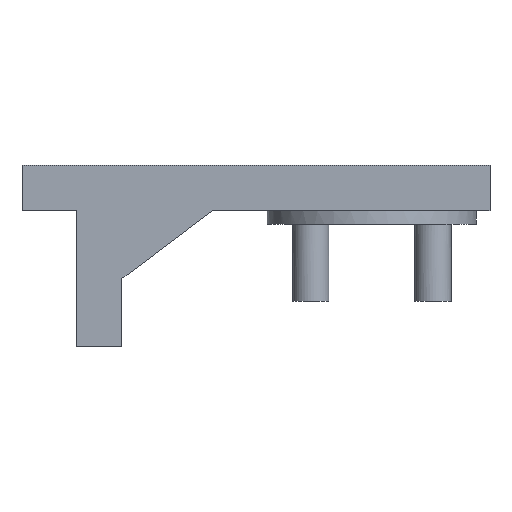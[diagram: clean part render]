
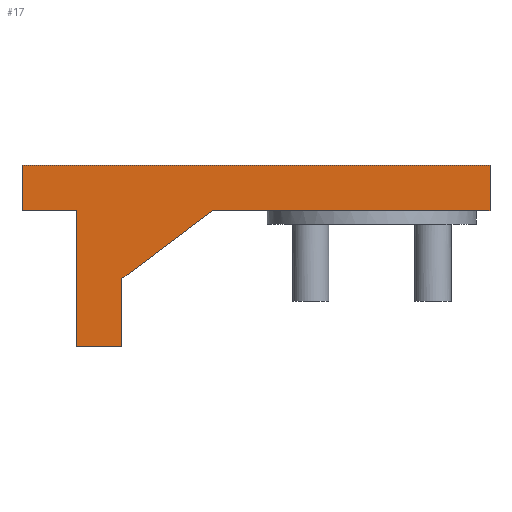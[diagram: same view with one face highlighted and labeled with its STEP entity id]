
A CAD part, left-side view. The second image highlights one B-rep face of the part: STEP entity #17.
In plain terms, the highlighted planar face has unit normal (-1, 0, 0).
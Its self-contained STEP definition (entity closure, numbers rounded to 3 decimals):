
#17 = ADVANCED_FACE('',(#18),#32,.F.);
#18 = FACE_BOUND('',#19,.F.);
#19 = EDGE_LOOP('',(#20,#55,#83,#111,#139,#167,#195,#223,#251));
#20 = ORIENTED_EDGE('',*,*,#21,.F.);
#21 = EDGE_CURVE('',#22,#24,#26,.T.);
#22 = VERTEX_POINT('',#23);
#23 = CARTESIAN_POINT('',(45.,39.,190.));
#24 = VERTEX_POINT('',#25);
#25 = CARTESIAN_POINT('',(45.,39.,200.));
#26 = SURFACE_CURVE('',#27,(#31,#43),.PCURVE_S1.);
#27 = LINE('',#28,#29);
#28 = CARTESIAN_POINT('',(45.,39.,190.));
#29 = VECTOR('',#30,1.);
#30 = DIRECTION('',(0.,0.,1.));
#31 = PCURVE('',#32,#37);
#32 = PLANE('',#33);
#33 = AXIS2_PLACEMENT_3D('',#34,#35,#36);
#34 = CARTESIAN_POINT('',(45.,39.,190.));
#35 = DIRECTION('',(1.,0.,0.));
#36 = DIRECTION('',(0.,0.,1.));
#37 = DEFINITIONAL_REPRESENTATION('',(#38),#42);
#38 = LINE('',#39,#40);
#39 = CARTESIAN_POINT('',(0.,0.));
#40 = VECTOR('',#41,1.);
#41 = DIRECTION('',(1.,0.));
#42 = ( GEOMETRIC_REPRESENTATION_CONTEXT(2) 
PARAMETRIC_REPRESENTATION_CONTEXT() REPRESENTATION_CONTEXT('2D SPACE',''
  ) );
#43 = PCURVE('',#44,#49);
#44 = PLANE('',#45);
#45 = AXIS2_PLACEMENT_3D('',#46,#47,#48);
#46 = CARTESIAN_POINT('',(45.,39.,190.));
#47 = DIRECTION('',(0.,1.,0.));
#48 = DIRECTION('',(0.,0.,1.));
#49 = DEFINITIONAL_REPRESENTATION('',(#50),#54);
#50 = LINE('',#51,#52);
#51 = CARTESIAN_POINT('',(0.,0.));
#52 = VECTOR('',#53,1.);
#53 = DIRECTION('',(1.,0.));
#54 = ( GEOMETRIC_REPRESENTATION_CONTEXT(2) 
PARAMETRIC_REPRESENTATION_CONTEXT() REPRESENTATION_CONTEXT('2D SPACE',''
  ) );
#55 = ORIENTED_EDGE('',*,*,#56,.T.);
#56 = EDGE_CURVE('',#22,#57,#59,.T.);
#57 = VERTEX_POINT('',#58);
#58 = CARTESIAN_POINT('',(45.,100.,190.));
#59 = SURFACE_CURVE('',#60,(#64,#71),.PCURVE_S1.);
#60 = LINE('',#61,#62);
#61 = CARTESIAN_POINT('',(45.,39.,190.));
#62 = VECTOR('',#63,1.);
#63 = DIRECTION('',(0.,1.,0.));
#64 = PCURVE('',#32,#65);
#65 = DEFINITIONAL_REPRESENTATION('',(#66),#70);
#66 = LINE('',#67,#68);
#67 = CARTESIAN_POINT('',(0.,0.));
#68 = VECTOR('',#69,1.);
#69 = DIRECTION('',(0.,-1.));
#70 = ( GEOMETRIC_REPRESENTATION_CONTEXT(2) 
PARAMETRIC_REPRESENTATION_CONTEXT() REPRESENTATION_CONTEXT('2D SPACE',''
  ) );
#71 = PCURVE('',#72,#77);
#72 = PLANE('',#73);
#73 = AXIS2_PLACEMENT_3D('',#74,#75,#76);
#74 = CARTESIAN_POINT('',(45.,39.,190.));
#75 = DIRECTION('',(0.,0.,1.));
#76 = DIRECTION('',(1.,0.,0.));
#77 = DEFINITIONAL_REPRESENTATION('',(#78),#82);
#78 = LINE('',#79,#80);
#79 = CARTESIAN_POINT('',(0.,0.));
#80 = VECTOR('',#81,1.);
#81 = DIRECTION('',(0.,1.));
#82 = ( GEOMETRIC_REPRESENTATION_CONTEXT(2) 
PARAMETRIC_REPRESENTATION_CONTEXT() REPRESENTATION_CONTEXT('2D SPACE',''
  ) );
#83 = ORIENTED_EDGE('',*,*,#84,.F.);
#84 = EDGE_CURVE('',#85,#57,#87,.T.);
#85 = VERTEX_POINT('',#86);
#86 = CARTESIAN_POINT('',(45.,120.,175.));
#87 = SURFACE_CURVE('',#88,(#92,#99),.PCURVE_S1.);
#88 = LINE('',#89,#90);
#89 = CARTESIAN_POINT('',(45.,120.,175.));
#90 = VECTOR('',#91,1.);
#91 = DIRECTION('',(0.,-0.8,0.6));
#92 = PCURVE('',#32,#93);
#93 = DEFINITIONAL_REPRESENTATION('',(#94),#98);
#94 = LINE('',#95,#96);
#95 = CARTESIAN_POINT('',(-15.,-81.));
#96 = VECTOR('',#97,1.);
#97 = DIRECTION('',(0.6,0.8));
#98 = ( GEOMETRIC_REPRESENTATION_CONTEXT(2) 
PARAMETRIC_REPRESENTATION_CONTEXT() REPRESENTATION_CONTEXT('2D SPACE',''
  ) );
#99 = PCURVE('',#100,#105);
#100 = PLANE('',#101);
#101 = AXIS2_PLACEMENT_3D('',#102,#103,#104);
#102 = CARTESIAN_POINT('',(45.,120.,175.));
#103 = DIRECTION('',(0.,-0.6,-0.8));
#104 = DIRECTION('',(0.,-0.8,0.6));
#105 = DEFINITIONAL_REPRESENTATION('',(#106),#110);
#106 = LINE('',#107,#108);
#107 = CARTESIAN_POINT('',(0.,0.));
#108 = VECTOR('',#109,1.);
#109 = DIRECTION('',(1.,0.));
#110 = ( GEOMETRIC_REPRESENTATION_CONTEXT(2) 
PARAMETRIC_REPRESENTATION_CONTEXT() REPRESENTATION_CONTEXT('2D SPACE',''
  ) );
#111 = ORIENTED_EDGE('',*,*,#112,.F.);
#112 = EDGE_CURVE('',#113,#85,#115,.T.);
#113 = VERTEX_POINT('',#114);
#114 = CARTESIAN_POINT('',(45.,120.,160.));
#115 = SURFACE_CURVE('',#116,(#120,#127),.PCURVE_S1.);
#116 = LINE('',#117,#118);
#117 = CARTESIAN_POINT('',(45.,120.,160.));
#118 = VECTOR('',#119,1.);
#119 = DIRECTION('',(0.,0.,1.));
#120 = PCURVE('',#32,#121);
#121 = DEFINITIONAL_REPRESENTATION('',(#122),#126);
#122 = LINE('',#123,#124);
#123 = CARTESIAN_POINT('',(-30.,-81.));
#124 = VECTOR('',#125,1.);
#125 = DIRECTION('',(1.,0.));
#126 = ( GEOMETRIC_REPRESENTATION_CONTEXT(2) 
PARAMETRIC_REPRESENTATION_CONTEXT() REPRESENTATION_CONTEXT('2D SPACE',''
  ) );
#127 = PCURVE('',#128,#133);
#128 = PLANE('',#129);
#129 = AXIS2_PLACEMENT_3D('',#130,#131,#132);
#130 = CARTESIAN_POINT('',(45.,120.,160.));
#131 = DIRECTION('',(0.,1.,0.));
#132 = DIRECTION('',(0.,0.,1.));
#133 = DEFINITIONAL_REPRESENTATION('',(#134),#138);
#134 = LINE('',#135,#136);
#135 = CARTESIAN_POINT('',(0.,0.));
#136 = VECTOR('',#137,1.);
#137 = DIRECTION('',(1.,0.));
#138 = ( GEOMETRIC_REPRESENTATION_CONTEXT(2) 
PARAMETRIC_REPRESENTATION_CONTEXT() REPRESENTATION_CONTEXT('2D SPACE',''
  ) );
#139 = ORIENTED_EDGE('',*,*,#140,.T.);
#140 = EDGE_CURVE('',#113,#141,#143,.T.);
#141 = VERTEX_POINT('',#142);
#142 = CARTESIAN_POINT('',(45.,130.,160.));
#143 = SURFACE_CURVE('',#144,(#148,#155),.PCURVE_S1.);
#144 = LINE('',#145,#146);
#145 = CARTESIAN_POINT('',(45.,120.,160.));
#146 = VECTOR('',#147,1.);
#147 = DIRECTION('',(0.,1.,0.));
#148 = PCURVE('',#32,#149);
#149 = DEFINITIONAL_REPRESENTATION('',(#150),#154);
#150 = LINE('',#151,#152);
#151 = CARTESIAN_POINT('',(-30.,-81.));
#152 = VECTOR('',#153,1.);
#153 = DIRECTION('',(0.,-1.));
#154 = ( GEOMETRIC_REPRESENTATION_CONTEXT(2) 
PARAMETRIC_REPRESENTATION_CONTEXT() REPRESENTATION_CONTEXT('2D SPACE',''
  ) );
#155 = PCURVE('',#156,#161);
#156 = PLANE('',#157);
#157 = AXIS2_PLACEMENT_3D('',#158,#159,#160);
#158 = CARTESIAN_POINT('',(45.,120.,160.));
#159 = DIRECTION('',(0.,0.,1.));
#160 = DIRECTION('',(1.,0.,0.));
#161 = DEFINITIONAL_REPRESENTATION('',(#162),#166);
#162 = LINE('',#163,#164);
#163 = CARTESIAN_POINT('',(0.,0.));
#164 = VECTOR('',#165,1.);
#165 = DIRECTION('',(0.,1.));
#166 = ( GEOMETRIC_REPRESENTATION_CONTEXT(2) 
PARAMETRIC_REPRESENTATION_CONTEXT() REPRESENTATION_CONTEXT('2D SPACE',''
  ) );
#167 = ORIENTED_EDGE('',*,*,#168,.T.);
#168 = EDGE_CURVE('',#141,#169,#171,.T.);
#169 = VERTEX_POINT('',#170);
#170 = CARTESIAN_POINT('',(45.,130.,190.));
#171 = SURFACE_CURVE('',#172,(#176,#183),.PCURVE_S1.);
#172 = LINE('',#173,#174);
#173 = CARTESIAN_POINT('',(45.,130.,160.));
#174 = VECTOR('',#175,1.);
#175 = DIRECTION('',(0.,0.,1.));
#176 = PCURVE('',#32,#177);
#177 = DEFINITIONAL_REPRESENTATION('',(#178),#182);
#178 = LINE('',#179,#180);
#179 = CARTESIAN_POINT('',(-30.,-91.));
#180 = VECTOR('',#181,1.);
#181 = DIRECTION('',(1.,0.));
#182 = ( GEOMETRIC_REPRESENTATION_CONTEXT(2) 
PARAMETRIC_REPRESENTATION_CONTEXT() REPRESENTATION_CONTEXT('2D SPACE',''
  ) );
#183 = PCURVE('',#184,#189);
#184 = PLANE('',#185);
#185 = AXIS2_PLACEMENT_3D('',#186,#187,#188);
#186 = CARTESIAN_POINT('',(45.,130.,160.));
#187 = DIRECTION('',(0.,1.,0.));
#188 = DIRECTION('',(0.,0.,1.));
#189 = DEFINITIONAL_REPRESENTATION('',(#190),#194);
#190 = LINE('',#191,#192);
#191 = CARTESIAN_POINT('',(0.,0.));
#192 = VECTOR('',#193,1.);
#193 = DIRECTION('',(1.,0.));
#194 = ( GEOMETRIC_REPRESENTATION_CONTEXT(2) 
PARAMETRIC_REPRESENTATION_CONTEXT() REPRESENTATION_CONTEXT('2D SPACE',''
  ) );
#195 = ORIENTED_EDGE('',*,*,#196,.T.);
#196 = EDGE_CURVE('',#169,#197,#199,.T.);
#197 = VERTEX_POINT('',#198);
#198 = CARTESIAN_POINT('',(45.,142.,190.));
#199 = SURFACE_CURVE('',#200,(#204,#211),.PCURVE_S1.);
#200 = LINE('',#201,#202);
#201 = CARTESIAN_POINT('',(45.,39.,190.));
#202 = VECTOR('',#203,1.);
#203 = DIRECTION('',(0.,1.,0.));
#204 = PCURVE('',#32,#205);
#205 = DEFINITIONAL_REPRESENTATION('',(#206),#210);
#206 = LINE('',#207,#208);
#207 = CARTESIAN_POINT('',(0.,0.));
#208 = VECTOR('',#209,1.);
#209 = DIRECTION('',(0.,-1.));
#210 = ( GEOMETRIC_REPRESENTATION_CONTEXT(2) 
PARAMETRIC_REPRESENTATION_CONTEXT() REPRESENTATION_CONTEXT('2D SPACE',''
  ) );
#211 = PCURVE('',#212,#217);
#212 = PLANE('',#213);
#213 = AXIS2_PLACEMENT_3D('',#214,#215,#216);
#214 = CARTESIAN_POINT('',(45.,39.,190.));
#215 = DIRECTION('',(0.,0.,1.));
#216 = DIRECTION('',(1.,0.,0.));
#217 = DEFINITIONAL_REPRESENTATION('',(#218),#222);
#218 = LINE('',#219,#220);
#219 = CARTESIAN_POINT('',(0.,0.));
#220 = VECTOR('',#221,1.);
#221 = DIRECTION('',(0.,1.));
#222 = ( GEOMETRIC_REPRESENTATION_CONTEXT(2) 
PARAMETRIC_REPRESENTATION_CONTEXT() REPRESENTATION_CONTEXT('2D SPACE',''
  ) );
#223 = ORIENTED_EDGE('',*,*,#224,.T.);
#224 = EDGE_CURVE('',#197,#225,#227,.T.);
#225 = VERTEX_POINT('',#226);
#226 = CARTESIAN_POINT('',(45.,142.,200.));
#227 = SURFACE_CURVE('',#228,(#232,#239),.PCURVE_S1.);
#228 = LINE('',#229,#230);
#229 = CARTESIAN_POINT('',(45.,142.,190.));
#230 = VECTOR('',#231,1.);
#231 = DIRECTION('',(0.,0.,1.));
#232 = PCURVE('',#32,#233);
#233 = DEFINITIONAL_REPRESENTATION('',(#234),#238);
#234 = LINE('',#235,#236);
#235 = CARTESIAN_POINT('',(0.,-103.));
#236 = VECTOR('',#237,1.);
#237 = DIRECTION('',(1.,0.));
#238 = ( GEOMETRIC_REPRESENTATION_CONTEXT(2) 
PARAMETRIC_REPRESENTATION_CONTEXT() REPRESENTATION_CONTEXT('2D SPACE',''
  ) );
#239 = PCURVE('',#240,#245);
#240 = PLANE('',#241);
#241 = AXIS2_PLACEMENT_3D('',#242,#243,#244);
#242 = CARTESIAN_POINT('',(45.,142.,190.));
#243 = DIRECTION('',(0.,1.,0.));
#244 = DIRECTION('',(0.,0.,1.));
#245 = DEFINITIONAL_REPRESENTATION('',(#246),#250);
#246 = LINE('',#247,#248);
#247 = CARTESIAN_POINT('',(0.,0.));
#248 = VECTOR('',#249,1.);
#249 = DIRECTION('',(1.,0.));
#250 = ( GEOMETRIC_REPRESENTATION_CONTEXT(2) 
PARAMETRIC_REPRESENTATION_CONTEXT() REPRESENTATION_CONTEXT('2D SPACE',''
  ) );
#251 = ORIENTED_EDGE('',*,*,#252,.F.);
#252 = EDGE_CURVE('',#24,#225,#253,.T.);
#253 = SURFACE_CURVE('',#254,(#258,#265),.PCURVE_S1.);
#254 = LINE('',#255,#256);
#255 = CARTESIAN_POINT('',(45.,39.,200.));
#256 = VECTOR('',#257,1.);
#257 = DIRECTION('',(0.,1.,0.));
#258 = PCURVE('',#32,#259);
#259 = DEFINITIONAL_REPRESENTATION('',(#260),#264);
#260 = LINE('',#261,#262);
#261 = CARTESIAN_POINT('',(10.,0.));
#262 = VECTOR('',#263,1.);
#263 = DIRECTION('',(0.,-1.));
#264 = ( GEOMETRIC_REPRESENTATION_CONTEXT(2) 
PARAMETRIC_REPRESENTATION_CONTEXT() REPRESENTATION_CONTEXT('2D SPACE',''
  ) );
#265 = PCURVE('',#266,#271);
#266 = PLANE('',#267);
#267 = AXIS2_PLACEMENT_3D('',#268,#269,#270);
#268 = CARTESIAN_POINT('',(45.,39.,200.));
#269 = DIRECTION('',(0.,0.,1.));
#270 = DIRECTION('',(1.,0.,0.));
#271 = DEFINITIONAL_REPRESENTATION('',(#272),#276);
#272 = LINE('',#273,#274);
#273 = CARTESIAN_POINT('',(0.,0.));
#274 = VECTOR('',#275,1.);
#275 = DIRECTION('',(0.,1.));
#276 = ( GEOMETRIC_REPRESENTATION_CONTEXT(2) 
PARAMETRIC_REPRESENTATION_CONTEXT() REPRESENTATION_CONTEXT('2D SPACE',''
  ) );
